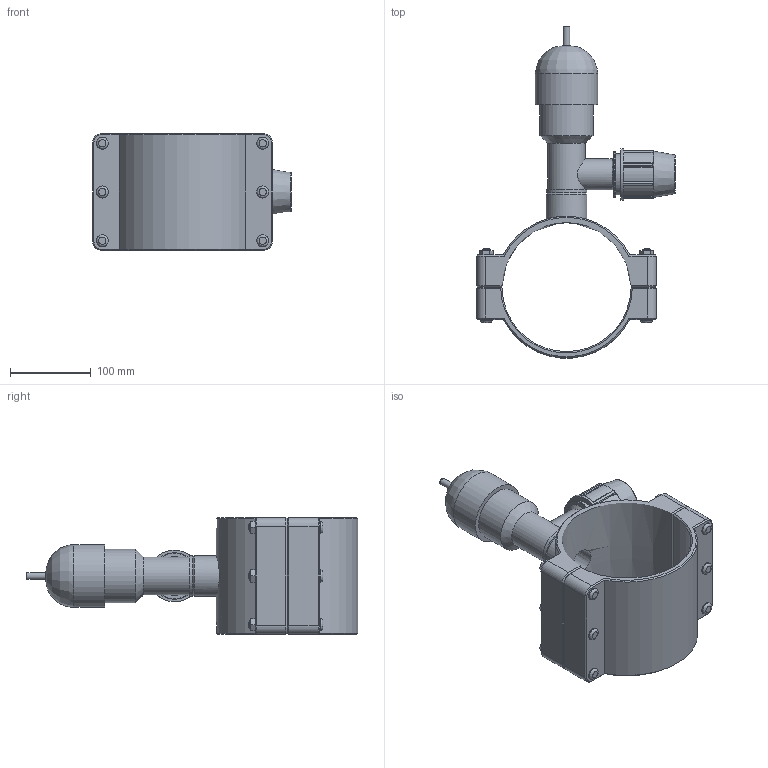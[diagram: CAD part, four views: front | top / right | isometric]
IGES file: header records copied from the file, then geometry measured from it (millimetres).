
Global section: file name: 186800160032.ipt; native system: Autodesk Inventor 2015; preprocessor: unknown; author: KIM; date: 20170618.094036; units: millimetre
Bounding box: 246.5 x 411.69 x 145 mm (x, y, z)
Volume: 1862890.1 mm3; surface area: 300598.3 mm2
Topology: 1 solids, 1 shells, 252 faces, 628 edges, 408 vertices
Faces by surface type: plane 151, cylinder 49, cone 31, revolution 21
Full cylindrical faces by diameter (mm): 8.19 x1, 10 x6, 15 x12, 38.4 x1, 38.952 x1, 46.742 x1, 50.638 x2, 51.2 x1, 57.6 x1, 64 x1, 66.218 x1, 77.904 x1
